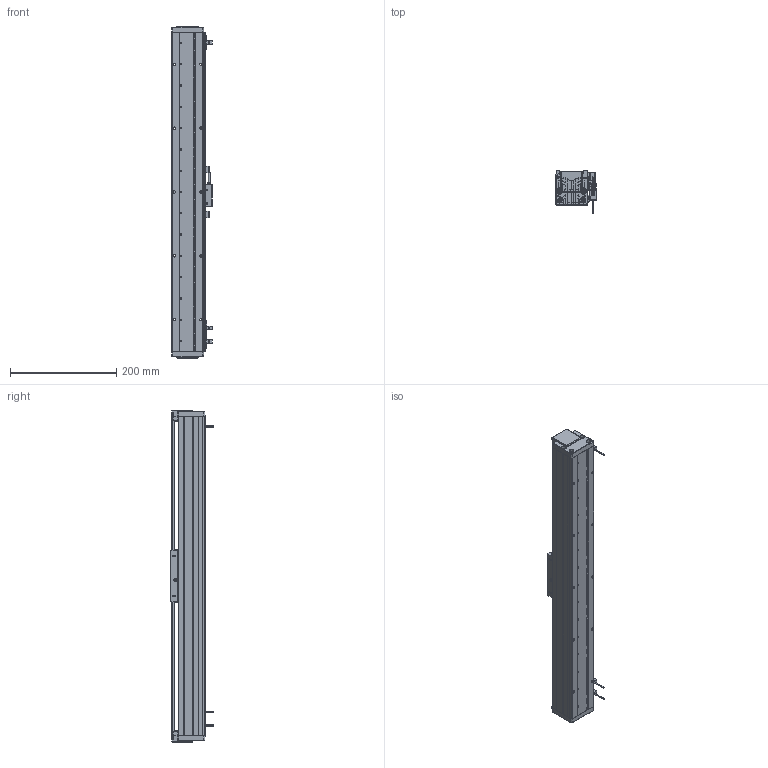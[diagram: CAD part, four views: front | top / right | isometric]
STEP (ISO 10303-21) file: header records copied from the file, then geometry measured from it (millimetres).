
FILE_DESCRIPTION (( 'STEP AP203' ), '1' );
FILE_NAME ('DA-A60-B1-T460-C010-0.2 眻盄萇儂.STEP', '2025-08-13T01:56:47', ( '' ), ( '' ), 'SwSTEP 2.0', 'SolidWorks 2019', '' );
FILE_SCHEMA (( 'CONFIG_CONTROL_DESIGN' ));
Length unit declared in the file: millimetre
Products named in the file (21): 复件 DA60-GT-T-00 底座钢轨^AU60-L 底座导轨; 葩璃 AKM01-W030-TRL^DA-A60-B1-T-C010-0.2-N 眻盄萇儂; 复件 DA60-DG-H-N-00 端盖^DA-A60-B1-T-C010-0.2-N 直线电机; AU60-V 幗紩賑怢; AU60-L 菁釱絳寢; 葩璃 DA60-HK-DP-01 結え^AU60-V 幗紩賑怢; DA-A60-B1-T460-C010-0.2 眻盄萇儂; 复件 六角薄螺母 M3^DA-A60-B1-T-C010-0.2-N 直线电机(GB_FASTENER_NUT_STNAB M3-C); DA60-YT-B1-HT-B-01 珨极趙賑雄怢啣; 复件 BAKM01-W030-C1-TP-0.2 直线电机动子^DA-A60-B1-T-C010-0.2-N 直线电机; 复件 DA60-DMT-DTJ-00 读数头支架^DA-A60-B1-T-C010-0.2-N 直线电机; 复件 纯铜油杯 6x6mm^AU60-V 滚珠滑台; 复件 DA60-XJ-00 橡胶挡块^DA-A60-B1-T-C010-0.2-N 直线电机; 复件 XD-U-02  磁栅尺^DA-A60-B1-T-C010-0.2-N 直线电机; 复件 DA60-B1-GT-00 滑块钢轨^DA60-YT-B1-HT-B-01 一体化滑动台板; IU-AU60-L-00 菁釱(600); 复件 DA-A60-GYP-DMT-00 光电感应片^DA-A60-B1-T-C010-0.2-N 直线电机(默认); 葩璃 DMT-010 1米m 0.2M^DA-A60-B1-T-C010-0.2-N 眻盄萇儂; DA60-T-002-00  裔啣; DA60-B1-HT-B-03 賑雄怢啣; 葩璃 PM-T45^DA-A60-B1-T-C010-0.2-N 眻盄萇儂
Assembly tree (33 placements, depth 4):
  DA-A60-B1-T460-C010-0.2 眻盄萇儂
    AU60-L 菁釱絳寢
      IU-AU60-L-00 菁釱(600)
      复件 DA60-GT-T-00 底座钢轨^AU60-L 底座导轨  x2
    AU60-V 幗紩賑怢
      DA60-YT-B1-HT-B-01 珨极趙賑雄怢啣
        DA60-B1-HT-B-03 賑雄怢啣
        复件 DA60-B1-GT-00 滑块钢轨^DA60-YT-B1-HT-B-01 一体化滑动台板  x2
      葩璃 DA60-HK-DP-01 結え^AU60-V 幗紩賑怢  x2
      复件 纯铜油杯 6x6mm^AU60-V 滚珠滑台
    复件 DA-A60-GYP-DMT-00 光电感应片^DA-A60-B1-T-C010-0.2-N 直线电机(默认)  x2
    复件 DA60-DMT-DTJ-00 读数头支架^DA-A60-B1-T-C010-0.2-N 直线电机
    葩璃 DMT-010 1米m 0.2M^DA-A60-B1-T-C010-0.2-N 眻盄萇儂
    复件 BAKM01-W030-C1-TP-0.2 直线电机动子^DA-A60-B1-T-C010-0.2-N 直线电机
    复件 DA60-XJ-00 橡胶挡块^DA-A60-B1-T-C010-0.2-N 直线电机  x2
    复件 DA60-DG-H-N-00 端盖^DA-A60-B1-T-C010-0.2-N 直线电机  x2
    DA60-T-002-00  裔啣
    葩璃 AKM01-W030-TRL^DA-A60-B1-T-C010-0.2-N 眻盄萇儂
    葩璃 PM-T45^DA-A60-B1-T-C010-0.2-N 眻盄萇儂  x3
    复件 XD-U-02  磁栅尺^DA-A60-B1-T-C010-0.2-N 直线电机
    复件 六角薄螺母 M3^DA-A60-B1-T-C010-0.2-N 直线电机(GB_FASTENER_NUT_STNAB M3-C)  x6
Bounding box: 76.95 x 80 x 624 mm (x, y, z)
Volume: 1326559.4 mm3; surface area: 482637.8 mm2
Topology: 35 solids, 37 shells, 2796 faces, 7100 edges, 4283 vertices
Faces by surface type: cylinder 1041, plane 921, bspline 577, cone 248, torus 8, sphere 1
Entity records: 68227 total; most frequent: CARTESIAN_POINT 22105, ORIENTED_EDGE 9456, DIRECTION 8667, EDGE_CURVE 4728, AXIS2_PLACEMENT_3D 3123, VERTEX_POINT 2954, VECTOR 2421, LINE 2421
